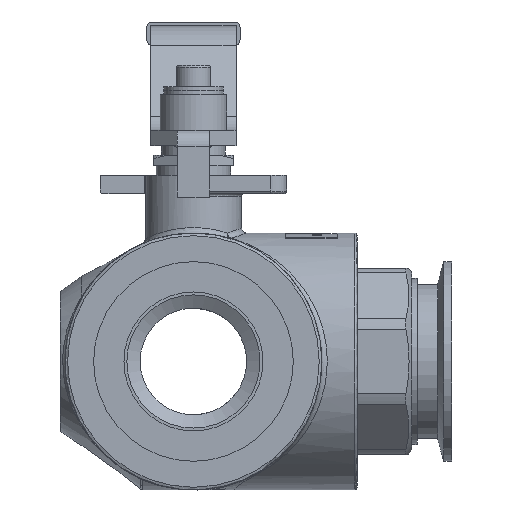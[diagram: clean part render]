
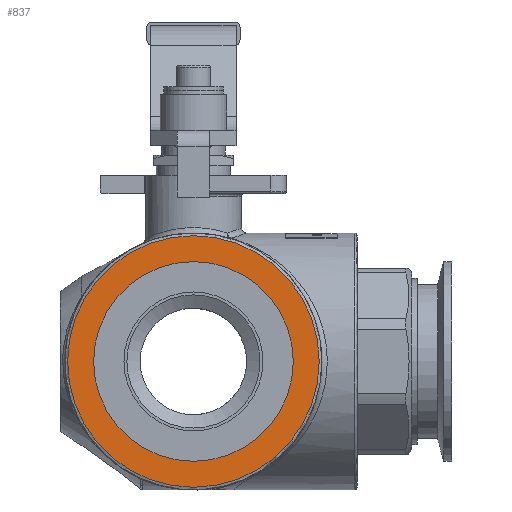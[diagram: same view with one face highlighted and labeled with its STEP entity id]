
A CAD part, left-side view. The second image highlights one B-rep face of the part: STEP entity #837.
In plain terms, the highlighted planar face has unit normal (-1, 0, 0).
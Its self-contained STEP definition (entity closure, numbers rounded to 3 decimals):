
#837 = ADVANCED_FACE( '', ( #2088, #2089 ), #2090, .T. );
#2088 = FACE_OUTER_BOUND( '', #4045, .T. );
#2089 = FACE_BOUND( '', #4046, .T. );
#2090 = PLANE( '', #4047 );
#4045 = EDGE_LOOP( '', ( #7647 ) );
#4046 = EDGE_LOOP( '', ( #7648, #7649, #7650, #7651, #7652, #7653, #7654, #7655, #7656, #7657, #7658, #7659, #7660, #7661, #7662, #7663 ) );
#4047 = AXIS2_PLACEMENT_3D( '', #7664, #7665, #7666 );
#7647 = ORIENTED_EDGE( '', *, *, #13682, .F. );
#7648 = ORIENTED_EDGE( '', *, *, #13683, .T. );
#7649 = ORIENTED_EDGE( '', *, *, #13684, .T. );
#7650 = ORIENTED_EDGE( '', *, *, #13685, .T. );
#7651 = ORIENTED_EDGE( '', *, *, #13624, .T. );
#7652 = ORIENTED_EDGE( '', *, *, #13444, .T. );
#7653 = ORIENTED_EDGE( '', *, *, #13686, .T. );
#7654 = ORIENTED_EDGE( '', *, *, #13687, .T. );
#7655 = ORIENTED_EDGE( '', *, *, #13688, .T. );
#7656 = ORIENTED_EDGE( '', *, *, #13689, .T. );
#7657 = ORIENTED_EDGE( '', *, *, #13690, .T. );
#7658 = ORIENTED_EDGE( '', *, *, #13691, .T. );
#7659 = ORIENTED_EDGE( '', *, *, #13615, .T. );
#7660 = ORIENTED_EDGE( '', *, *, #13692, .T. );
#7661 = ORIENTED_EDGE( '', *, *, #13693, .T. );
#7662 = ORIENTED_EDGE( '', *, *, #13694, .T. );
#7663 = ORIENTED_EDGE( '', *, *, #13695, .T. );
#7664 = CARTESIAN_POINT( '', ( -61.5, 41.625, 0. ) );
#7665 = DIRECTION( '', ( -1., 0., 0. ) );
#7666 = DIRECTION( '', ( 0., 0., 1. ) );
#13444 = EDGE_CURVE( '', #15448, #15446, #15449, .T. );
#13615 = EDGE_CURVE( '', #15754, #15752, #15755, .T. );
#13624 = EDGE_CURVE( '', #15769, #15448, #15770, .T. );
#13682 = EDGE_CURVE( '', #15869, #15869, #15870, .T. );
#13683 = EDGE_CURVE( '', #15871, #15872, #15873, .T. );
#13684 = EDGE_CURVE( '', #15872, #15874, #15875, .T. );
#13685 = EDGE_CURVE( '', #15874, #15769, #15876, .T. );
#13686 = EDGE_CURVE( '', #15446, #15877, #15878, .T. );
#13687 = EDGE_CURVE( '', #15877, #15879, #15880, .T. );
#13688 = EDGE_CURVE( '', #15879, #15881, #15882, .T. );
#13689 = EDGE_CURVE( '', #15881, #15883, #15884, .T. );
#13690 = EDGE_CURVE( '', #15883, #15885, #15886, .T. );
#13691 = EDGE_CURVE( '', #15885, #15754, #15887, .T. );
#13692 = EDGE_CURVE( '', #15752, #15888, #15889, .T. );
#13693 = EDGE_CURVE( '', #15888, #15890, #15891, .T. );
#13694 = EDGE_CURVE( '', #15890, #15892, #15893, .T. );
#13695 = EDGE_CURVE( '', #15892, #15871, #15894, .T. );
#15446 = VERTEX_POINT( '', #18403 );
#15448 = VERTEX_POINT( '', #18406 );
#15449 = LINE( '', #18407, #18408 );
#15752 = VERTEX_POINT( '', #18984 );
#15754 = VERTEX_POINT( '', #18987 );
#15755 = CIRCLE( '', #18988, 37. );
#15769 = VERTEX_POINT( '', #19005 );
#15770 = CIRCLE( '', #19006, 37. );
#15869 = VERTEX_POINT( '', #19310 );
#15870 = CIRCLE( '', #19311, 47.25 );
#15871 = VERTEX_POINT( '', #19312 );
#15872 = VERTEX_POINT( '', #19313 );
#15873 = LINE( '', #19314, #19315 );
#15874 = VERTEX_POINT( '', #19316 );
#15875 = CIRCLE( '', #19317, 37. );
#15876 = LINE( '', #19318, #19319 );
#15877 = VERTEX_POINT( '', #19320 );
#15878 = CIRCLE( '', #19321, 37. );
#15879 = VERTEX_POINT( '', #19322 );
#15880 = LINE( '', #19323, #19324 );
#15881 = VERTEX_POINT( '', #19325 );
#15882 = CIRCLE( '', #19326, 37. );
#15883 = VERTEX_POINT( '', #19327 );
#15884 = LINE( '', #19328, #19329 );
#15885 = VERTEX_POINT( '', #19330 );
#15886 = CIRCLE( '', #19331, 37. );
#15887 = LINE( '', #19332, #19333 );
#15888 = VERTEX_POINT( '', #19334 );
#15889 = LINE( '', #19335, #19336 );
#15890 = VERTEX_POINT( '', #19337 );
#15891 = CIRCLE( '', #19338, 37. );
#15892 = VERTEX_POINT( '', #19339 );
#15893 = LINE( '', #19340, #19341 );
#15894 = CIRCLE( '', #19342, 37. );
#18403 = CARTESIAN_POINT( '', ( -61.5, -12., 35. ) );
#18406 = CARTESIAN_POINT( '', ( -61.5, 12., 35. ) );
#18407 = CARTESIAN_POINT( '', ( -61.5, 12., 35. ) );
#18408 = VECTOR( '', #24954, 1000. );
#18984 = CARTESIAN_POINT( '', ( -61.5, -12., -35. ) );
#18987 = CARTESIAN_POINT( '', ( -61.5, -16.263, -33.234 ) );
#18988 = AXIS2_PLACEMENT_3D( '', #25125, #25126, #25127 );
#19005 = CARTESIAN_POINT( '', ( -61.5, 16.263, 33.234 ) );
#19006 = AXIS2_PLACEMENT_3D( '', #25140, #25141, #25142 );
#19310 = CARTESIAN_POINT( '', ( -61.5, -47.25, 0. ) );
#19311 = AXIS2_PLACEMENT_3D( '', #25173, #25174, #25175 );
#19312 = CARTESIAN_POINT( '', ( -61.5, 35., -12. ) );
#19313 = CARTESIAN_POINT( '', ( -61.5, 35., 12. ) );
#19314 = CARTESIAN_POINT( '', ( -61.5, 35., -12. ) );
#19315 = VECTOR( '', #25176, 1000. );
#19316 = CARTESIAN_POINT( '', ( -61.5, 33.234, 16.263 ) );
#19317 = AXIS2_PLACEMENT_3D( '', #25177, #25178, #25179 );
#19318 = CARTESIAN_POINT( '', ( -61.5, 33.234, 16.263 ) );
#19319 = VECTOR( '', #25180, 1000. );
#19320 = CARTESIAN_POINT( '', ( -61.5, -16.263, 33.234 ) );
#19321 = AXIS2_PLACEMENT_3D( '', #25181, #25182, #25183 );
#19322 = CARTESIAN_POINT( '', ( -61.5, -33.234, 16.263 ) );
#19323 = CARTESIAN_POINT( '', ( -61.5, -16.263, 33.234 ) );
#19324 = VECTOR( '', #25184, 1000. );
#19325 = CARTESIAN_POINT( '', ( -61.5, -35., 12. ) );
#19326 = AXIS2_PLACEMENT_3D( '', #25185, #25186, #25187 );
#19327 = CARTESIAN_POINT( '', ( -61.5, -35., -12. ) );
#19328 = CARTESIAN_POINT( '', ( -61.5, -35., 12. ) );
#19329 = VECTOR( '', #25188, 1000. );
#19330 = CARTESIAN_POINT( '', ( -61.5, -33.234, -16.263 ) );
#19331 = AXIS2_PLACEMENT_3D( '', #25189, #25190, #25191 );
#19332 = CARTESIAN_POINT( '', ( -61.5, -33.234, -16.263 ) );
#19333 = VECTOR( '', #25192, 1000. );
#19334 = CARTESIAN_POINT( '', ( -61.5, 12., -35. ) );
#19335 = CARTESIAN_POINT( '', ( -61.5, -12., -35. ) );
#19336 = VECTOR( '', #25193, 1000. );
#19337 = CARTESIAN_POINT( '', ( -61.5, 16.263, -33.234 ) );
#19338 = AXIS2_PLACEMENT_3D( '', #25194, #25195, #25196 );
#19339 = CARTESIAN_POINT( '', ( -61.5, 33.234, -16.263 ) );
#19340 = CARTESIAN_POINT( '', ( -61.5, 16.263, -33.234 ) );
#19341 = VECTOR( '', #25197, 1000. );
#19342 = AXIS2_PLACEMENT_3D( '', #25198, #25199, #25200 );
#24954 = DIRECTION( '', ( 0., -1., 0. ) );
#25125 = CARTESIAN_POINT( '', ( -61.5, 0., 0. ) );
#25126 = DIRECTION( '', ( 1., 0., 0. ) );
#25127 = DIRECTION( '', ( 0., -0.324, -0.946 ) );
#25140 = CARTESIAN_POINT( '', ( -61.5, 0., 0. ) );
#25141 = DIRECTION( '', ( 1., 0., 0. ) );
#25142 = DIRECTION( '', ( 0., 0.324, 0.946 ) );
#25173 = CARTESIAN_POINT( '', ( -61.5, 0., 0. ) );
#25174 = DIRECTION( '', ( 1., 0., 0. ) );
#25175 = DIRECTION( '', ( 0., -1., 0. ) );
#25176 = DIRECTION( '', ( 0., 0., 1. ) );
#25177 = CARTESIAN_POINT( '', ( -61.5, 0., 0. ) );
#25178 = DIRECTION( '', ( 1., 0., 0. ) );
#25179 = DIRECTION( '', ( 0., 0.898, 0.44 ) );
#25180 = DIRECTION( '', ( 0., -0.707, 0.707 ) );
#25181 = CARTESIAN_POINT( '', ( -61.5, 0., 0. ) );
#25182 = DIRECTION( '', ( 1., 0., 0. ) );
#25183 = DIRECTION( '', ( 0., -0.44, 0.898 ) );
#25184 = DIRECTION( '', ( 0., -0.707, -0.707 ) );
#25185 = CARTESIAN_POINT( '', ( -61.5, 0., 0. ) );
#25186 = DIRECTION( '', ( 1., 0., 0. ) );
#25187 = DIRECTION( '', ( 0., -0.946, 0.324 ) );
#25188 = DIRECTION( '', ( 0., 0., -1. ) );
#25189 = CARTESIAN_POINT( '', ( -61.5, 0., 0. ) );
#25190 = DIRECTION( '', ( 1., 0., 0. ) );
#25191 = DIRECTION( '', ( 0., -0.898, -0.44 ) );
#25192 = DIRECTION( '', ( 0., 0.707, -0.707 ) );
#25193 = DIRECTION( '', ( 0., 1., 0. ) );
#25194 = CARTESIAN_POINT( '', ( -61.5, 0., 0. ) );
#25195 = DIRECTION( '', ( 1., 0., 0. ) );
#25196 = DIRECTION( '', ( 0., 0.44, -0.898 ) );
#25197 = DIRECTION( '', ( 0., 0.707, 0.707 ) );
#25198 = CARTESIAN_POINT( '', ( -61.5, 0., 0. ) );
#25199 = DIRECTION( '', ( 1., 0., 0. ) );
#25200 = DIRECTION( '', ( 0., 0.946, -0.324 ) );
